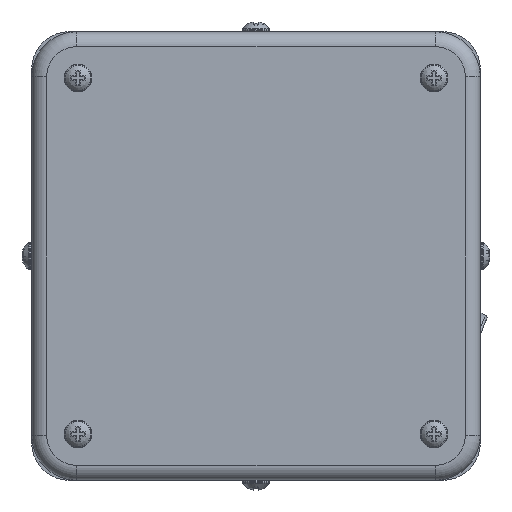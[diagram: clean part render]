
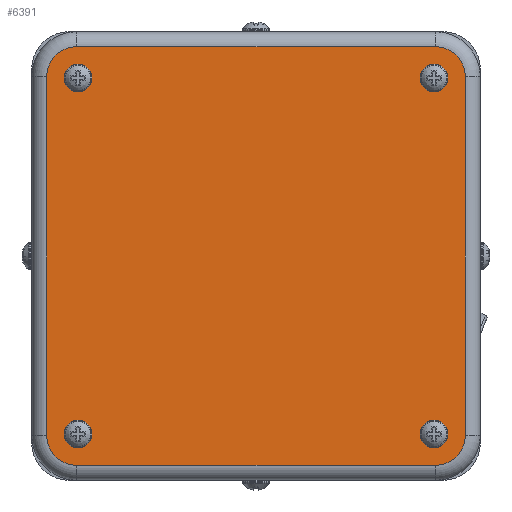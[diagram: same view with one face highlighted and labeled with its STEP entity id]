
A CAD part, left-side view. The second image highlights one B-rep face of the part: STEP entity #6391.
In plain terms, the highlighted planar face has unit normal (-1, 0, 0).
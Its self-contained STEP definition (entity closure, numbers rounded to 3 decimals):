
#2061=CARTESIAN_POINT('',(-60.,35.709,32.909));
#2062=VERTEX_POINT('',#2061);
#2063=CARTESIAN_POINT('',(-60.,35.709,35.709));
#2064=DIRECTION('',(1.0,0.0,0.0));
#2065=DIRECTION('',(0.0,0.0,1.0));
#2066=AXIS2_PLACEMENT_3D('',#2063,#2064,#2065);
#2067=CIRCLE('',#2066,2.8);
#2068=EDGE_CURVE('',#2062,#2062,#2067,.T.);
#2660=CARTESIAN_POINT('',(-60.,35.709,-38.509));
#2661=VERTEX_POINT('',#2660);
#2662=CARTESIAN_POINT('',(-60.,35.709,-35.709));
#2663=DIRECTION('',(1.0,0.0,0.0));
#2664=DIRECTION('',(0.0,0.0,1.0));
#2665=AXIS2_PLACEMENT_3D('',#2662,#2663,#2664);
#2666=CIRCLE('',#2665,2.8);
#2667=EDGE_CURVE('',#2661,#2661,#2666,.T.);
#3257=CARTESIAN_POINT('',(-60.,-35.709,-38.509));
#3258=VERTEX_POINT('',#3257);
#3259=CARTESIAN_POINT('',(-60.,-35.709,-35.709));
#3260=DIRECTION('',(1.0,0.0,0.0));
#3261=DIRECTION('',(0.0,0.0,1.0));
#3262=AXIS2_PLACEMENT_3D('',#3259,#3260,#3261);
#3263=CIRCLE('',#3262,2.8);
#3264=EDGE_CURVE('',#3258,#3258,#3263,.T.);
#6296=CARTESIAN_POINT('',(-60.,-7.027,-7.027));
#6297=DIRECTION('',(1.0,0.0,0.0));
#6298=DIRECTION('',(0.0,0.0,-1.0));
#6299=AXIS2_PLACEMENT_3D('',#6296,#6297,#6298);
#6300=PLANE('',#6299);
#6301=CARTESIAN_POINT('',(-60.,-42.,-36.));
#6302=VERTEX_POINT('',#6301);
#6303=CARTESIAN_POINT('',(-60.,-36.,-42.));
#6304=VERTEX_POINT('',#6303);
#6305=CARTESIAN_POINT('',(-60.,-36.,-36.));
#6306=DIRECTION('',(1.0,0.0,0.0));
#6307=DIRECTION('',(0.0,-0.707,-0.707));
#6308=AXIS2_PLACEMENT_3D('',#6305,#6306,#6307);
#6309=CIRCLE('',#6308,6.);
#6310=EDGE_CURVE('',#6302,#6304,#6309,.T.);
#6311=ORIENTED_EDGE('',*,*,#6310,.F.);
#6312=CARTESIAN_POINT('',(-60.,-42.0,36.));
#6313=VERTEX_POINT('',#6312);
#6314=CARTESIAN_POINT('',(-60.,-42.0,36.));
#6315=DIRECTION('',(0.0,0.0,-1.0));
#6316=VECTOR('',#6315,72.);
#6317=LINE('',#6314,#6316);
#6318=EDGE_CURVE('',#6313,#6302,#6317,.T.);
#6319=ORIENTED_EDGE('',*,*,#6318,.F.);
#6320=CARTESIAN_POINT('',(-60.,-36.0,42.));
#6321=VERTEX_POINT('',#6320);
#6322=CARTESIAN_POINT('',(-60.,-36.,36.));
#6323=DIRECTION('',(1.0,0.0,0.0));
#6324=DIRECTION('',(0.0,-0.707,0.707));
#6325=AXIS2_PLACEMENT_3D('',#6322,#6323,#6324);
#6326=CIRCLE('',#6325,6.);
#6327=EDGE_CURVE('',#6321,#6313,#6326,.T.);
#6328=ORIENTED_EDGE('',*,*,#6327,.F.);
#6329=CARTESIAN_POINT('',(-60.,36.0,42.));
#6330=VERTEX_POINT('',#6329);
#6331=CARTESIAN_POINT('',(-60.,36.0,42.));
#6332=DIRECTION('',(0.0,-1.0,0.0));
#6333=VECTOR('',#6332,72.0);
#6334=LINE('',#6331,#6333);
#6335=EDGE_CURVE('',#6330,#6321,#6334,.T.);
#6336=ORIENTED_EDGE('',*,*,#6335,.F.);
#6337=CARTESIAN_POINT('',(-60.,42.0,36.));
#6338=VERTEX_POINT('',#6337);
#6339=CARTESIAN_POINT('',(-60.,36.,36.));
#6340=DIRECTION('',(1.0,0.0,0.0));
#6341=DIRECTION('',(0.0,0.707,0.707));
#6342=AXIS2_PLACEMENT_3D('',#6339,#6340,#6341);
#6343=CIRCLE('',#6342,6.);
#6344=EDGE_CURVE('',#6338,#6330,#6343,.T.);
#6345=ORIENTED_EDGE('',*,*,#6344,.F.);
#6346=CARTESIAN_POINT('',(-60.,42.,-36.));
#6347=VERTEX_POINT('',#6346);
#6348=CARTESIAN_POINT('',(-60.,42.,-36.));
#6349=DIRECTION('',(0.0,0.0,1.0));
#6350=VECTOR('',#6349,72.);
#6351=LINE('',#6348,#6350);
#6352=EDGE_CURVE('',#6347,#6338,#6351,.T.);
#6353=ORIENTED_EDGE('',*,*,#6352,.F.);
#6354=CARTESIAN_POINT('',(-60.,36.,-42.));
#6355=VERTEX_POINT('',#6354);
#6356=CARTESIAN_POINT('',(-60.,36.,-36.));
#6357=DIRECTION('',(1.0,0.0,0.0));
#6358=DIRECTION('',(0.0,0.707,-0.707));
#6359=AXIS2_PLACEMENT_3D('',#6356,#6357,#6358);
#6360=CIRCLE('',#6359,6.);
#6361=EDGE_CURVE('',#6355,#6347,#6360,.T.);
#6362=ORIENTED_EDGE('',*,*,#6361,.F.);
#6363=CARTESIAN_POINT('',(-60.,-36.,-42.));
#6364=DIRECTION('',(0.0,1.0,0.0));
#6365=VECTOR('',#6364,72.);
#6366=LINE('',#6363,#6365);
#6367=EDGE_CURVE('',#6304,#6355,#6366,.T.);
#6368=ORIENTED_EDGE('',*,*,#6367,.F.);
#6369=EDGE_LOOP('',(#6311,#6319,#6328,#6336,#6345,#6353,#6362,#6368));
#6370=FACE_OUTER_BOUND('',#6369,.T.);
#6371=ORIENTED_EDGE('',*,*,#2068,.T.);
#6372=EDGE_LOOP('',(#6371));
#6373=FACE_BOUND('',#6372,.T.);
#6374=CARTESIAN_POINT('',(-60.,-35.709,32.909));
#6375=VERTEX_POINT('',#6374);
#6376=CARTESIAN_POINT('',(-60.,-35.709,35.709));
#6377=DIRECTION('',(1.0,0.0,0.0));
#6378=DIRECTION('',(0.0,0.0,1.0));
#6379=AXIS2_PLACEMENT_3D('',#6376,#6377,#6378);
#6380=CIRCLE('',#6379,2.8);
#6381=EDGE_CURVE('',#6375,#6375,#6380,.T.);
#6382=ORIENTED_EDGE('',*,*,#6381,.T.);
#6383=EDGE_LOOP('',(#6382));
#6384=FACE_BOUND('',#6383,.T.);
#6385=ORIENTED_EDGE('',*,*,#2667,.T.);
#6386=EDGE_LOOP('',(#6385));
#6387=FACE_BOUND('',#6386,.T.);
#6388=ORIENTED_EDGE('',*,*,#3264,.T.);
#6389=EDGE_LOOP('',(#6388));
#6390=FACE_BOUND('',#6389,.T.);
#6391=ADVANCED_FACE('',(#6370,#6373,#6384,#6387,#6390),#6300,.F.);
